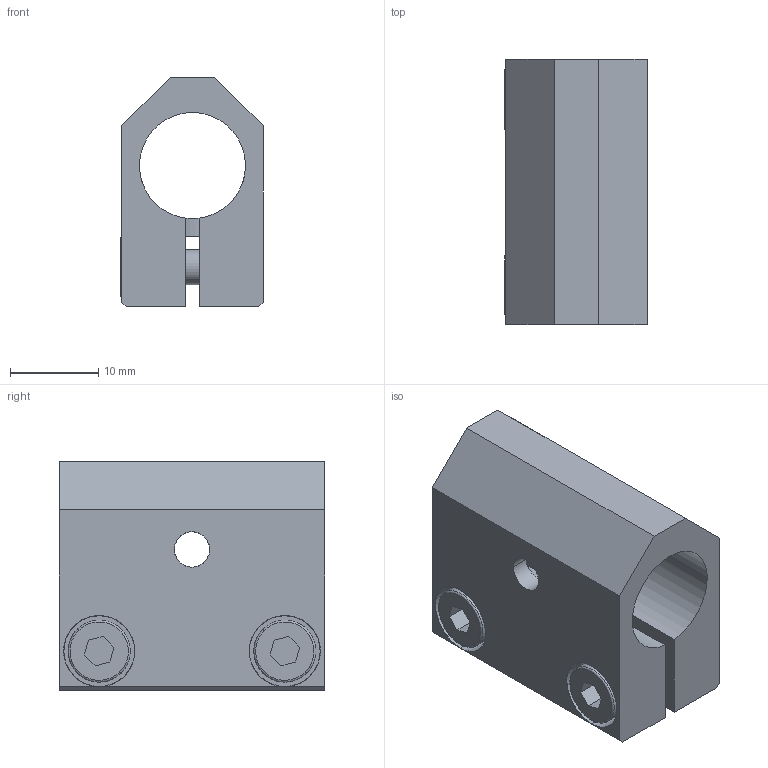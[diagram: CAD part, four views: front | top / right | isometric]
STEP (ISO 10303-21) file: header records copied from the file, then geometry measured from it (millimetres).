
FILE_DESCRIPTION (( 'STEP AP214' ), '1' );
FILE_NAME ('SMBF-1212.STEP', '2019-11-06T06:04:38', ( '微软用户' ), ( '微软中国' ), 'SwSTEP 2.0', 'SolidWorks 2016', '' );
FILE_SCHEMA (( 'AUTOMOTIVE_DESIGN' ));
Length unit declared in the file: millimetre
Products named in the file (1): SMBF-1212
Bounding box: 16.1 x 30 x 26 mm (x, y, z)
Volume: 6660.1 mm3; surface area: 5657.7 mm2
Topology: 5 solids, 5 shells, 473 faces, 1367 edges, 900 vertices
Faces by surface type: plane 422, cylinder 39, cone 8, bspline 4
Entity records: 21248 total; most frequent: CARTESIAN_POINT 3125, DIRECTION 2737, ORIENTED_EDGE 2734, EDGE_CURVE 1367, AXIS2_PLACEMENT_3D 920, VERTEX_POINT 900, VECTOR 897, LINE 897
